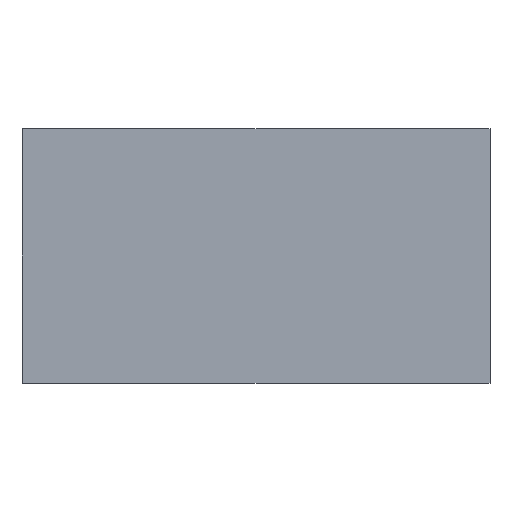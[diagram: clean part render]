
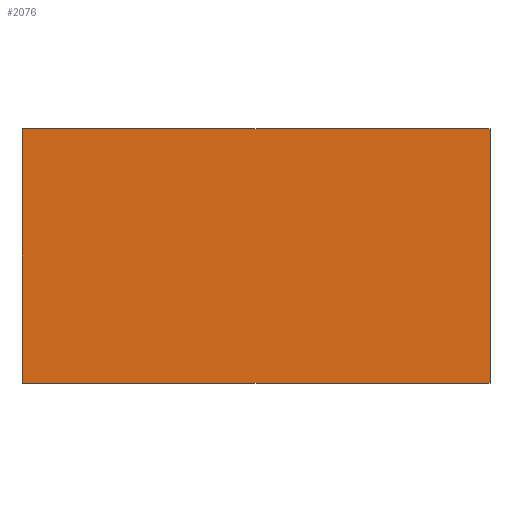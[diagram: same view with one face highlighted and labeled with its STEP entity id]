
A CAD part, left-side view. The second image highlights one B-rep face of the part: STEP entity #2076.
In plain terms, the highlighted planar face has unit normal (-1, 0, 0).
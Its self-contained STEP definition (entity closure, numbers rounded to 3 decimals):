
#1372 = PLANE('',#1373);
#1373 = AXIS2_PLACEMENT_3D('',#1374,#1375,#1376);
#1374 = CARTESIAN_POINT('',(-46.,-27.439,-16.77));
#1375 = DIRECTION('',(0.,1.,0.));
#1376 = DIRECTION('',(0.,-0.,1.));
#1398 = PLANE('',#1399);
#1399 = AXIS2_PLACEMENT_3D('',#1400,#1401,#1402);
#1400 = CARTESIAN_POINT('',(-46.,-27.439,-16.77));
#1401 = DIRECTION('',(0.,0.,1.));
#1402 = DIRECTION('',(1.,0.,-0.));
#1523 = PLANE('',#1524);
#1524 = AXIS2_PLACEMENT_3D('',#1525,#1526,#1527);
#1525 = CARTESIAN_POINT('',(-46.,-14.589,-16.77));
#1526 = DIRECTION('',(0.,1.,0.));
#1527 = DIRECTION('',(0.,-0.,1.));
#1625 = PLANE('',#1626);
#1626 = AXIS2_PLACEMENT_3D('',#1627,#1628,#1629);
#1627 = CARTESIAN_POINT('',(-46.,-27.439,-9.77));
#1628 = DIRECTION('',(0.,0.,1.));
#1629 = DIRECTION('',(1.,0.,-0.));
#1865 = VERTEX_POINT('',#1866);
#1866 = CARTESIAN_POINT('',(-46.,-27.439,-16.77));
#1887 = EDGE_CURVE('',#1865,#1888,#1890,.T.);
#1888 = VERTEX_POINT('',#1889);
#1889 = CARTESIAN_POINT('',(-46.,-27.439,-9.77));
#1890 = SURFACE_CURVE('',#1891,(#1895,#1902),.PCURVE_S1.);
#1891 = LINE('',#1892,#1893);
#1892 = CARTESIAN_POINT('',(-46.,-27.439,-16.77));
#1893 = VECTOR('',#1894,1.);
#1894 = DIRECTION('',(0.,0.,1.));
#1895 = PCURVE('',#1372,#1896);
#1896 = DEFINITIONAL_REPRESENTATION('',(#1897),#1901);
#1897 = LINE('',#1898,#1899);
#1898 = CARTESIAN_POINT('',(0.,0.));
#1899 = VECTOR('',#1900,1.);
#1900 = DIRECTION('',(1.,0.));
#1901 = ( GEOMETRIC_REPRESENTATION_CONTEXT(2) 
PARAMETRIC_REPRESENTATION_CONTEXT() REPRESENTATION_CONTEXT('2D SPACE',''
  ) );
#1902 = PCURVE('',#1903,#1908);
#1903 = PLANE('',#1904);
#1904 = AXIS2_PLACEMENT_3D('',#1905,#1906,#1907);
#1905 = CARTESIAN_POINT('',(-46.,-27.439,-16.77));
#1906 = DIRECTION('',(1.,0.,0.));
#1907 = DIRECTION('',(0.,0.,1.));
#1908 = DEFINITIONAL_REPRESENTATION('',(#1909),#1913);
#1909 = LINE('',#1910,#1911);
#1910 = CARTESIAN_POINT('',(0.,0.));
#1911 = VECTOR('',#1912,1.);
#1912 = DIRECTION('',(1.,0.));
#1913 = ( GEOMETRIC_REPRESENTATION_CONTEXT(2) 
PARAMETRIC_REPRESENTATION_CONTEXT() REPRESENTATION_CONTEXT('2D SPACE',''
  ) );
#1944 = VERTEX_POINT('',#1945);
#1945 = CARTESIAN_POINT('',(-46.,-14.589,-16.77));
#1966 = EDGE_CURVE('',#1865,#1944,#1967,.T.);
#1967 = SURFACE_CURVE('',#1968,(#1972,#1979),.PCURVE_S1.);
#1968 = LINE('',#1969,#1970);
#1969 = CARTESIAN_POINT('',(-46.,-27.439,-16.77));
#1970 = VECTOR('',#1971,1.);
#1971 = DIRECTION('',(0.,1.,0.));
#1972 = PCURVE('',#1398,#1973);
#1973 = DEFINITIONAL_REPRESENTATION('',(#1974),#1978);
#1974 = LINE('',#1975,#1976);
#1975 = CARTESIAN_POINT('',(0.,0.));
#1976 = VECTOR('',#1977,1.);
#1977 = DIRECTION('',(0.,1.));
#1978 = ( GEOMETRIC_REPRESENTATION_CONTEXT(2) 
PARAMETRIC_REPRESENTATION_CONTEXT() REPRESENTATION_CONTEXT('2D SPACE',''
  ) );
#1979 = PCURVE('',#1903,#1980);
#1980 = DEFINITIONAL_REPRESENTATION('',(#1981),#1985);
#1981 = LINE('',#1982,#1983);
#1982 = CARTESIAN_POINT('',(0.,0.));
#1983 = VECTOR('',#1984,1.);
#1984 = DIRECTION('',(0.,-1.));
#1985 = ( GEOMETRIC_REPRESENTATION_CONTEXT(2) 
PARAMETRIC_REPRESENTATION_CONTEXT() REPRESENTATION_CONTEXT('2D SPACE',''
  ) );
#1998 = EDGE_CURVE('',#1944,#1999,#2001,.T.);
#1999 = VERTEX_POINT('',#2000);
#2000 = CARTESIAN_POINT('',(-46.,-14.589,-9.77));
#2001 = SURFACE_CURVE('',#2002,(#2006,#2013),.PCURVE_S1.);
#2002 = LINE('',#2003,#2004);
#2003 = CARTESIAN_POINT('',(-46.,-14.589,-16.77));
#2004 = VECTOR('',#2005,1.);
#2005 = DIRECTION('',(0.,0.,1.));
#2006 = PCURVE('',#1523,#2007);
#2007 = DEFINITIONAL_REPRESENTATION('',(#2008),#2012);
#2008 = LINE('',#2009,#2010);
#2009 = CARTESIAN_POINT('',(0.,0.));
#2010 = VECTOR('',#2011,1.);
#2011 = DIRECTION('',(1.,0.));
#2012 = ( GEOMETRIC_REPRESENTATION_CONTEXT(2) 
PARAMETRIC_REPRESENTATION_CONTEXT() REPRESENTATION_CONTEXT('2D SPACE',''
  ) );
#2013 = PCURVE('',#1903,#2014);
#2014 = DEFINITIONAL_REPRESENTATION('',(#2015),#2019);
#2015 = LINE('',#2016,#2017);
#2016 = CARTESIAN_POINT('',(0.,-12.85));
#2017 = VECTOR('',#2018,1.);
#2018 = DIRECTION('',(1.,0.));
#2019 = ( GEOMETRIC_REPRESENTATION_CONTEXT(2) 
PARAMETRIC_REPRESENTATION_CONTEXT() REPRESENTATION_CONTEXT('2D SPACE',''
  ) );
#2050 = EDGE_CURVE('',#1888,#1999,#2051,.T.);
#2051 = SURFACE_CURVE('',#2052,(#2056,#2063),.PCURVE_S1.);
#2052 = LINE('',#2053,#2054);
#2053 = CARTESIAN_POINT('',(-46.,-27.439,-9.77));
#2054 = VECTOR('',#2055,1.);
#2055 = DIRECTION('',(0.,1.,0.));
#2056 = PCURVE('',#1625,#2057);
#2057 = DEFINITIONAL_REPRESENTATION('',(#2058),#2062);
#2058 = LINE('',#2059,#2060);
#2059 = CARTESIAN_POINT('',(0.,0.));
#2060 = VECTOR('',#2061,1.);
#2061 = DIRECTION('',(0.,1.));
#2062 = ( GEOMETRIC_REPRESENTATION_CONTEXT(2) 
PARAMETRIC_REPRESENTATION_CONTEXT() REPRESENTATION_CONTEXT('2D SPACE',''
  ) );
#2063 = PCURVE('',#1903,#2064);
#2064 = DEFINITIONAL_REPRESENTATION('',(#2065),#2069);
#2065 = LINE('',#2066,#2067);
#2066 = CARTESIAN_POINT('',(7.,0.));
#2067 = VECTOR('',#2068,1.);
#2068 = DIRECTION('',(0.,-1.));
#2069 = ( GEOMETRIC_REPRESENTATION_CONTEXT(2) 
PARAMETRIC_REPRESENTATION_CONTEXT() REPRESENTATION_CONTEXT('2D SPACE',''
  ) );
#2076 = ADVANCED_FACE('',(#2077),#1903,.F.);
#2077 = FACE_BOUND('',#2078,.F.);
#2078 = EDGE_LOOP('',(#2079,#2080,#2081,#2082));
#2079 = ORIENTED_EDGE('',*,*,#1887,.F.);
#2080 = ORIENTED_EDGE('',*,*,#1966,.T.);
#2081 = ORIENTED_EDGE('',*,*,#1998,.T.);
#2082 = ORIENTED_EDGE('',*,*,#2050,.F.);
